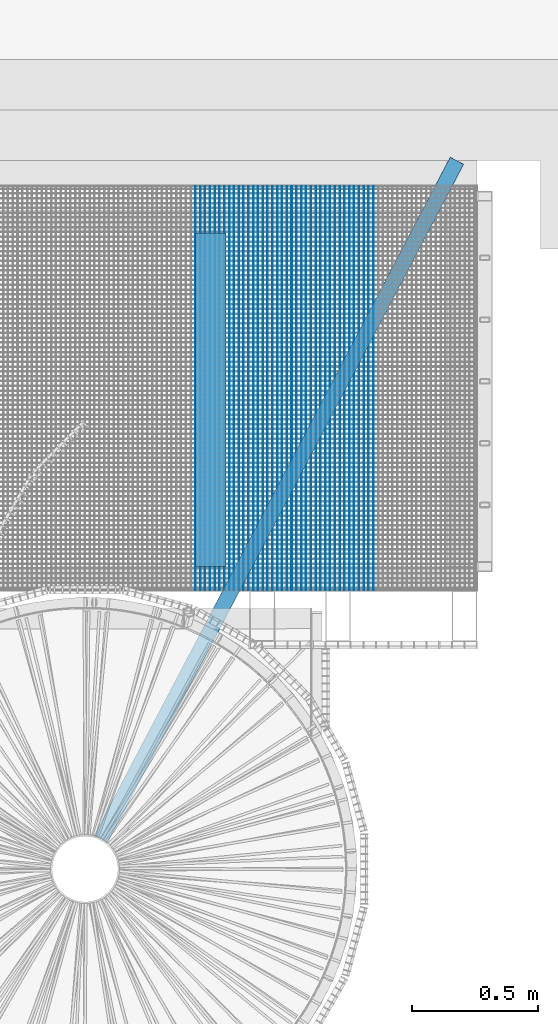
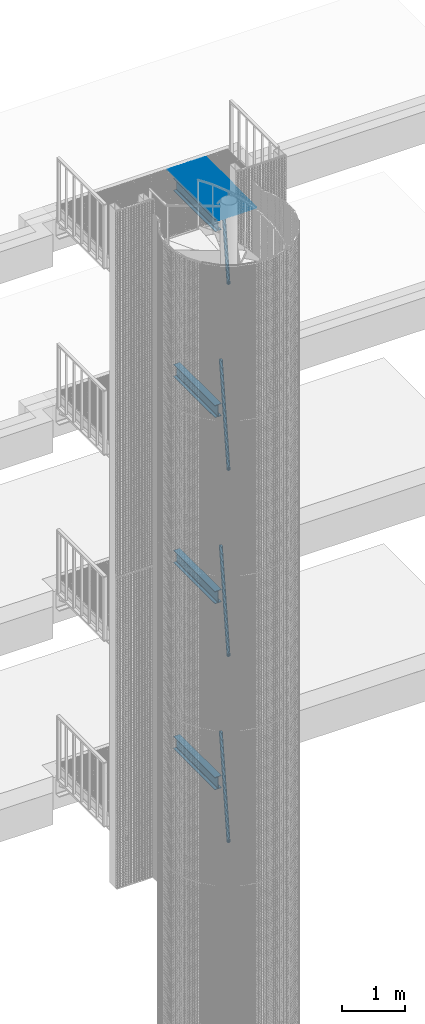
# One storey, part 86 of 1183: 46 beams, 9 elements without a shape of their own.
"""IFC2X3 building model written with IfcOpenShell, lengths in millimetres."""

from ifc_helpers import new_model, si_unit, frame, origin_with_axes, origin_2d_with_axis, place, context, subcontext, project, spatial, polyline, rectangle, hollow_circle, i_section, outline, extrude, boolean, material, type_object, element, aggregate, save


model = new_model("IFC2X3")

# Units and contexts
model_context = context("Model", 3, precision=1e-05, world=origin_with_axes())
body_context = subcontext(model_context, "Body", "Model", "MODEL_VIEW")
ifc_project = project(units=[si_unit("LENGTHUNIT", "METRE", prefix="MILLI"), si_unit("AREAUNIT", "SQUARE_METRE"), si_unit("VOLUMEUNIT", "CUBIC_METRE"), si_unit("MASSUNIT", "GRAM", prefix="KILO"), si_unit("TIMEUNIT", "SECOND"), si_unit("PLANEANGLEUNIT", "RADIAN"), si_unit("SOLIDANGLEUNIT", "STERADIAN"), si_unit("THERMODYNAMICTEMPERATUREUNIT", "DEGREE_CELSIUS"), si_unit("LUMINOUSINTENSITYUNIT", "LUMEN")], contexts=[model_context])

# Site, building, storey
site_placement = place(None, origin_with_axes())
site = spatial("IfcSite", under=ifc_project, at=site_placement, Name="Undefined", CompositionType="ELEMENT")
building_placement = place(site_placement, origin_with_axes())
building = spatial("IfcBuilding", under=site, at=building_placement, Name="Undefined", CompositionType="ELEMENT")
storey_placement = place(building_placement, origin_with_axes())
storey = spatial("IfcBuildingStorey", under=building, at=storey_placement, Name="Undefined", CompositionType="ELEMENT", Elevation=0.0)

# Assembly, beams
assembly_1_placement = place(storey_placement, origin_with_axes())
assembly_1 = element("IfcElementAssembly", 1, at=assembly_1_placement, inside=storey, Name="BORDURE", AssemblyPlace="NOTDEFINED", PredefinedType="NOTDEFINED")
ifc_material_1 = material(Name="STEEL/S235JR")
beam_type_1 = type_object("IfcBeamType", Name="PL2*10", PredefinedType="NOTDEFINED")
beam_1_placement = place(assembly_1_placement, frame((437.075424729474, 1102.00446993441, 17285.0), z_axis=(0.0, 0.0, 1.0), x_axis=(-4.50599999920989e-06, 0.999999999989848, 0.0)))
beam_1 = element("IfcBeam", 2, at=beam_1_placement, type_object=beam_type_1, material=ifc_material_1, Name="ENTRETOISE", context=body_context, shape_type="SweptSolid", body=[
    extrude(rectangle(XDim=2.0, YDim=10.0, at=origin_2d_with_axis()), frame((1596.0000000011, -1.35186458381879e-18, -7.27595761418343e-12), z_axis=(-1.0, 0.0, 0.0), x_axis=(0.0, -1.0, 0.0)), (0.0, 0.0, 1.0), 1596.0),
])
beam_2_placement = place(assembly_1_placement, frame((456.07542472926, 1102.00456345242, 17285.0), z_axis=(0.0, 0.0, 1.0), x_axis=(-4.50599999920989e-06, 0.999999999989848, 0.0)))
beam_2 = element("IfcBeam", 3, at=beam_2_placement, type_object=beam_type_1, material=ifc_material_1, Name="ENTRETOISE", context=body_context, shape_type="SweptSolid", body=[
    extrude(rectangle(XDim=2.0, YDim=10.0, at=origin_2d_with_axis()), frame((1596.0000000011, -1.35186458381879e-18, -7.27595761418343e-12), z_axis=(-1.0, 0.0, 0.0), x_axis=(0.0, -1.0, 0.0)), (0.0, 0.0, 1.0), 1596.0),
])
beam_3_placement = place(assembly_1_placement, frame((475.075424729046, 1102.00465697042, 17285.0), z_axis=(0.0, 0.0, 1.0), x_axis=(-4.50599999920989e-06, 0.999999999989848, 0.0)))
beam_3 = element("IfcBeam", 4, at=beam_3_placement, type_object=beam_type_1, material=ifc_material_1, Name="ENTRETOISE", context=body_context, shape_type="SweptSolid", body=[
    extrude(rectangle(XDim=2.0, YDim=10.0, at=origin_2d_with_axis()), frame((1596.0000000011, -1.35186458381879e-18, -7.27595761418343e-12), z_axis=(-1.0, 0.0, 0.0), x_axis=(0.0, -1.0, 0.0)), (0.0, 0.0, 1.0), 1596.0),
])
beam_4_placement = place(assembly_1_placement, frame((494.075424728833, 1102.00475048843, 17285.0), z_axis=(0.0, 0.0, 1.0), x_axis=(-4.50599999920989e-06, 0.999999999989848, 0.0)))
beam_4 = element("IfcBeam", 5, at=beam_4_placement, type_object=beam_type_1, material=ifc_material_1, Name="ENTRETOISE", context=body_context, shape_type="SweptSolid", body=[
    extrude(rectangle(XDim=2.0, YDim=10.0, at=origin_2d_with_axis()), frame((1596.0000000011, -1.35186458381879e-18, -7.27595761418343e-12), z_axis=(-1.0, 0.0, 0.0), x_axis=(0.0, -1.0, 0.0)), (0.0, 0.0, 1.0), 1596.0),
])
beam_5_placement = place(assembly_1_placement, frame((513.07542472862, 1102.00484400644, 17285.0), z_axis=(0.0, 0.0, 1.0), x_axis=(-4.50599999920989e-06, 0.999999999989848, 0.0)))
beam_5 = element("IfcBeam", 6, at=beam_5_placement, type_object=beam_type_1, material=ifc_material_1, Name="ENTRETOISE", context=body_context, shape_type="SweptSolid", body=[
    extrude(rectangle(XDim=2.0, YDim=10.0, at=origin_2d_with_axis()), frame((1596.0000000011, -1.35186458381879e-18, -7.27595761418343e-12), z_axis=(-1.0, 0.0, 0.0), x_axis=(0.0, -1.0, 0.0)), (0.0, 0.0, 1.0), 1596.0),
])
beam_6_placement = place(assembly_1_placement, frame((532.075424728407, 1102.00493752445, 17285.0), z_axis=(0.0, 0.0, 1.0), x_axis=(-4.50599999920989e-06, 0.999999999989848, 0.0)))
beam_6 = element("IfcBeam", 7, at=beam_6_placement, type_object=beam_type_1, material=ifc_material_1, Name="ENTRETOISE", context=body_context, shape_type="SweptSolid", body=[
    extrude(rectangle(XDim=2.0, YDim=10.0, at=origin_2d_with_axis()), frame((1596.0000000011, -1.35186458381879e-18, -7.27595761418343e-12), z_axis=(-1.0, 0.0, 0.0), x_axis=(0.0, -1.0, 0.0)), (0.0, 0.0, 1.0), 1596.0),
])
beam_7_placement = place(assembly_1_placement, frame((551.075424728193, 1102.00503104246, 17285.0), z_axis=(0.0, 0.0, 1.0), x_axis=(-4.50599999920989e-06, 0.999999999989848, 0.0)))
beam_7 = element("IfcBeam", 8, at=beam_7_placement, type_object=beam_type_1, material=ifc_material_1, Name="ENTRETOISE", context=body_context, shape_type="SweptSolid", body=[
    extrude(rectangle(XDim=2.0, YDim=10.0, at=origin_2d_with_axis()), frame((1596.0000000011, -1.35186458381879e-18, -7.27595761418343e-12), z_axis=(-1.0, 0.0, 0.0), x_axis=(0.0, -1.0, 0.0)), (0.0, 0.0, 1.0), 1596.0),
])
beam_8_placement = place(assembly_1_placement, frame((570.07542472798, 1102.00512456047, 17285.0), z_axis=(0.0, 0.0, 1.0), x_axis=(-4.50599999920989e-06, 0.999999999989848, 0.0)))
beam_8 = element("IfcBeam", 9, at=beam_8_placement, type_object=beam_type_1, material=ifc_material_1, Name="ENTRETOISE", context=body_context, shape_type="SweptSolid", body=[
    extrude(rectangle(XDim=2.0, YDim=10.0, at=origin_2d_with_axis()), frame((1596.0000000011, -1.35186458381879e-18, -7.27595761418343e-12), z_axis=(-1.0, 0.0, 0.0), x_axis=(0.0, -1.0, 0.0)), (0.0, 0.0, 1.0), 1596.0),
])
beam_9_placement = place(assembly_1_placement, frame((589.075424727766, 1102.00521807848, 17285.0), z_axis=(0.0, 0.0, 1.0), x_axis=(-4.50599999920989e-06, 0.999999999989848, 0.0)))
beam_9 = element("IfcBeam", 10, at=beam_9_placement, type_object=beam_type_1, material=ifc_material_1, Name="ENTRETOISE", context=body_context, shape_type="SweptSolid", body=[
    extrude(rectangle(XDim=2.0, YDim=10.0, at=origin_2d_with_axis()), frame((1596.0000000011, -1.35186458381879e-18, -7.27595761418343e-12), z_axis=(-1.0, 0.0, 0.0), x_axis=(0.0, -1.0, 0.0)), (0.0, 0.0, 1.0), 1596.0),
])
beam_10_placement = place(assembly_1_placement, frame((608.075424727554, 1102.00531159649, 17285.0), z_axis=(0.0, 0.0, 1.0), x_axis=(-4.50599999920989e-06, 0.999999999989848, 0.0)))
beam_10 = element("IfcBeam", 11, at=beam_10_placement, type_object=beam_type_1, material=ifc_material_1, Name="ENTRETOISE", context=body_context, shape_type="SweptSolid", body=[
    extrude(rectangle(XDim=2.0, YDim=10.0, at=origin_2d_with_axis()), frame((1596.0000000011, -1.35186458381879e-18, -7.27595761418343e-12), z_axis=(-1.0, 0.0, 0.0), x_axis=(0.0, -1.0, 0.0)), (0.0, 0.0, 1.0), 1596.0),
])
beam_11_placement = place(assembly_1_placement, frame((627.075424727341, 1102.0054051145, 17285.0), z_axis=(0.0, 0.0, 1.0), x_axis=(-4.50599999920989e-06, 0.999999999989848, 0.0)))
beam_11 = element("IfcBeam", 12, at=beam_11_placement, type_object=beam_type_1, material=ifc_material_1, Name="ENTRETOISE", context=body_context, shape_type="SweptSolid", body=[
    extrude(rectangle(XDim=2.0, YDim=10.0, at=origin_2d_with_axis()), frame((1596.0000000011, -1.35186458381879e-18, -7.27595761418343e-12), z_axis=(-1.0, 0.0, 0.0), x_axis=(0.0, -1.0, 0.0)), (0.0, 0.0, 1.0), 1596.0),
])
beam_12_placement = place(assembly_1_placement, frame((646.075424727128, 1102.0054986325, 17285.0), z_axis=(0.0, 0.0, 1.0), x_axis=(-4.50599999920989e-06, 0.999999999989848, 0.0)))
beam_12 = element("IfcBeam", 13, at=beam_12_placement, type_object=beam_type_1, material=ifc_material_1, Name="ENTRETOISE", context=body_context, shape_type="SweptSolid", body=[
    extrude(rectangle(XDim=2.0, YDim=10.0, at=origin_2d_with_axis()), frame((1596.0000000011, -1.35186458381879e-18, -7.27595761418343e-12), z_axis=(-1.0, 0.0, 0.0), x_axis=(0.0, -1.0, 0.0)), (0.0, 0.0, 1.0), 1596.0),
])
beam_13_placement = place(assembly_1_placement, frame((665.075424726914, 1102.00559215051, 17285.0), z_axis=(0.0, 0.0, 1.0), x_axis=(-4.50599999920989e-06, 0.999999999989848, 0.0)))
beam_13 = element("IfcBeam", 14, at=beam_13_placement, type_object=beam_type_1, material=ifc_material_1, Name="ENTRETOISE", context=body_context, shape_type="SweptSolid", body=[
    extrude(rectangle(XDim=2.0, YDim=10.0, at=origin_2d_with_axis()), frame((1596.0000000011, -1.35186458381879e-18, -7.27595761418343e-12), z_axis=(-1.0, 0.0, 0.0), x_axis=(0.0, -1.0, 0.0)), (0.0, 0.0, 1.0), 1596.0),
])
beam_14_placement = place(assembly_1_placement, frame((684.0754247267, 1102.00568566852, 17285.0), z_axis=(0.0, 0.0, 1.0), x_axis=(-4.50599999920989e-06, 0.999999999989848, 0.0)))
beam_14 = element("IfcBeam", 15, at=beam_14_placement, type_object=beam_type_1, material=ifc_material_1, Name="ENTRETOISE", context=body_context, shape_type="SweptSolid", body=[
    extrude(rectangle(XDim=2.0, YDim=10.0, at=origin_2d_with_axis()), frame((1596.0000000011, -1.35186458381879e-18, -7.27595761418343e-12), z_axis=(-1.0, 0.0, 0.0), x_axis=(0.0, -1.0, 0.0)), (0.0, 0.0, 1.0), 1596.0),
])
beam_15_placement = place(assembly_1_placement, frame((703.075424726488, 1102.00577918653, 17285.0), z_axis=(0.0, 0.0, 1.0), x_axis=(-4.50599999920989e-06, 0.999999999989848, 0.0)))
beam_15 = element("IfcBeam", 16, at=beam_15_placement, type_object=beam_type_1, material=ifc_material_1, Name="ENTRETOISE", context=body_context, shape_type="SweptSolid", body=[
    extrude(rectangle(XDim=2.0, YDim=10.0, at=origin_2d_with_axis()), frame((1596.0000000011, -1.35186458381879e-18, -7.27595761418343e-12), z_axis=(-1.0, 0.0, 0.0), x_axis=(0.0, -1.0, 0.0)), (0.0, 0.0, 1.0), 1596.0),
])
beam_16_placement = place(assembly_1_placement, frame((722.075424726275, 1102.00587270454, 17285.0), z_axis=(0.0, 0.0, 1.0), x_axis=(-4.50599999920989e-06, 0.999999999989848, 0.0)))
beam_16 = element("IfcBeam", 17, at=beam_16_placement, type_object=beam_type_1, material=ifc_material_1, Name="ENTRETOISE", context=body_context, shape_type="SweptSolid", body=[
    extrude(rectangle(XDim=2.0, YDim=10.0, at=origin_2d_with_axis()), frame((1596.0000000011, -1.35186458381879e-18, -7.27595761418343e-12), z_axis=(-1.0, 0.0, 0.0), x_axis=(0.0, -1.0, 0.0)), (0.0, 0.0, 1.0), 1596.0),
])
beam_17_placement = place(assembly_1_placement, frame((741.075424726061, 1102.00596622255, 17285.0), z_axis=(0.0, 0.0, 1.0), x_axis=(-4.50599999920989e-06, 0.999999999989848, 0.0)))
beam_17 = element("IfcBeam", 18, at=beam_17_placement, type_object=beam_type_1, material=ifc_material_1, Name="ENTRETOISE", context=body_context, shape_type="SweptSolid", body=[
    extrude(rectangle(XDim=2.0, YDim=10.0, at=origin_2d_with_axis()), frame((1596.0000000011, -1.35186458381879e-18, -7.27595761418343e-12), z_axis=(-1.0, 0.0, 0.0), x_axis=(0.0, -1.0, 0.0)), (0.0, 0.0, 1.0), 1596.0),
])
beam_18_placement = place(assembly_1_placement, frame((760.075424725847, 1102.00605974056, 17285.0), z_axis=(0.0, 0.0, 1.0), x_axis=(-4.50599999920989e-06, 0.999999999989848, 0.0)))
beam_18 = element("IfcBeam", 19, at=beam_18_placement, type_object=beam_type_1, material=ifc_material_1, Name="ENTRETOISE", context=body_context, shape_type="SweptSolid", body=[
    extrude(rectangle(XDim=2.0, YDim=10.0, at=origin_2d_with_axis()), frame((1596.0000000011, -1.35186458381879e-18, -7.27595761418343e-12), z_axis=(-1.0, 0.0, 0.0), x_axis=(0.0, -1.0, 0.0)), (0.0, 0.0, 1.0), 1596.0),
])
beam_19_placement = place(assembly_1_placement, frame((779.075424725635, 1102.00615325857, 17285.0), z_axis=(0.0, 0.0, 1.0), x_axis=(-4.50599999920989e-06, 0.999999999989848, 0.0)))
beam_19 = element("IfcBeam", 20, at=beam_19_placement, type_object=beam_type_1, material=ifc_material_1, Name="ENTRETOISE", context=body_context, shape_type="SweptSolid", body=[
    extrude(rectangle(XDim=2.0, YDim=10.0, at=origin_2d_with_axis()), frame((1596.0000000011, -1.35186458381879e-18, -7.27595761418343e-12), z_axis=(-1.0, 0.0, 0.0), x_axis=(0.0, -1.0, 0.0)), (0.0, 0.0, 1.0), 1596.0),
])
beam_20_placement = place(assembly_1_placement, frame((798.075424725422, 1102.00624677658, 17285.0), z_axis=(0.0, 0.0, 1.0), x_axis=(-4.50599999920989e-06, 0.999999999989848, 0.0)))
beam_20 = element("IfcBeam", 21, at=beam_20_placement, type_object=beam_type_1, material=ifc_material_1, Name="ENTRETOISE", context=body_context, shape_type="SweptSolid", body=[
    extrude(rectangle(XDim=2.0, YDim=10.0, at=origin_2d_with_axis()), frame((1596.0000000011, -1.35186458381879e-18, -7.27595761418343e-12), z_axis=(-1.0, 0.0, 0.0), x_axis=(0.0, -1.0, 0.0)), (0.0, 0.0, 1.0), 1596.0),
])
beam_21_placement = place(assembly_1_placement, frame((817.075424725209, 1102.00634029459, 17285.0), z_axis=(0.0, 0.0, 1.0), x_axis=(-4.50599999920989e-06, 0.999999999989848, 0.0)))
beam_21 = element("IfcBeam", 22, at=beam_21_placement, type_object=beam_type_1, material=ifc_material_1, Name="ENTRETOISE", context=body_context, shape_type="SweptSolid", body=[
    extrude(rectangle(XDim=2.0, YDim=10.0, at=origin_2d_with_axis()), frame((1596.0000000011, -1.35186458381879e-18, -7.27595761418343e-12), z_axis=(-1.0, 0.0, 0.0), x_axis=(0.0, -1.0, 0.0)), (0.0, 0.0, 1.0), 1596.0),
])
beam_22_placement = place(assembly_1_placement, frame((836.075424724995, 1102.00643381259, 17285.0), z_axis=(0.0, 0.0, 1.0), x_axis=(-4.50599999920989e-06, 0.999999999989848, 0.0)))
beam_22 = element("IfcBeam", 23, at=beam_22_placement, type_object=beam_type_1, material=ifc_material_1, Name="ENTRETOISE", context=body_context, shape_type="SweptSolid", body=[
    extrude(rectangle(XDim=2.0, YDim=10.0, at=origin_2d_with_axis()), frame((1596.0000000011, -1.35186458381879e-18, -7.27595761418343e-12), z_axis=(-1.0, 0.0, 0.0), x_axis=(0.0, -1.0, 0.0)), (0.0, 0.0, 1.0), 1596.0),
])
beam_23_placement = place(assembly_1_placement, frame((855.075424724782, 1102.0065273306, 17285.0), z_axis=(0.0, 0.0, 1.0), x_axis=(-4.50599999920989e-06, 0.999999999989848, 0.0)))
beam_23 = element("IfcBeam", 24, at=beam_23_placement, type_object=beam_type_1, material=ifc_material_1, Name="ENTRETOISE", context=body_context, shape_type="SweptSolid", body=[
    extrude(rectangle(XDim=2.0, YDim=10.0, at=origin_2d_with_axis()), frame((1596.0000000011, -1.35186458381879e-18, -7.27595761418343e-12), z_axis=(-1.0, 0.0, 0.0), x_axis=(0.0, -1.0, 0.0)), (0.0, 0.0, 1.0), 1596.0),
])
beam_24_placement = place(assembly_1_placement, frame((874.075424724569, 1102.00662084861, 17285.0), z_axis=(0.0, 0.0, 1.0), x_axis=(-4.50599999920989e-06, 0.999999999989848, 0.0)))
beam_24 = element("IfcBeam", 25, at=beam_24_placement, type_object=beam_type_1, material=ifc_material_1, Name="ENTRETOISE", context=body_context, shape_type="SweptSolid", body=[
    extrude(rectangle(XDim=2.0, YDim=10.0, at=origin_2d_with_axis()), frame((1596.0000000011, -1.35186458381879e-18, -7.27595761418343e-12), z_axis=(-1.0, 0.0, 0.0), x_axis=(0.0, -1.0, 0.0)), (0.0, 0.0, 1.0), 1596.0),
])
beam_25_placement = place(assembly_1_placement, frame((893.075424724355, 1102.00671436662, 17285.0), z_axis=(0.0, 0.0, 1.0), x_axis=(-4.50599999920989e-06, 0.999999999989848, 0.0)))
beam_25 = element("IfcBeam", 26, at=beam_25_placement, type_object=beam_type_1, material=ifc_material_1, Name="ENTRETOISE", context=body_context, shape_type="SweptSolid", body=[
    extrude(rectangle(XDim=2.0, YDim=10.0, at=origin_2d_with_axis()), frame((1596.0000000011, -1.35186458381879e-18, -7.27595761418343e-12), z_axis=(-1.0, 0.0, 0.0), x_axis=(0.0, -1.0, 0.0)), (0.0, 0.0, 1.0), 1596.0),
])
beam_26_placement = place(assembly_1_placement, frame((912.075424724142, 1102.00680788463, 17285.0), z_axis=(0.0, 0.0, 1.0), x_axis=(-4.50599999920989e-06, 0.999999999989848, 0.0)))
beam_26 = element("IfcBeam", 27, at=beam_26_placement, type_object=beam_type_1, material=ifc_material_1, Name="ENTRETOISE", context=body_context, shape_type="SweptSolid", body=[
    extrude(rectangle(XDim=2.0, YDim=10.0, at=origin_2d_with_axis()), frame((1596.0000000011, -1.35186458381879e-18, -7.27595761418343e-12), z_axis=(-1.0, 0.0, 0.0), x_axis=(0.0, -1.0, 0.0)), (0.0, 0.0, 1.0), 1596.0),
])
beam_27_placement = place(assembly_1_placement, frame((931.075424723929, 1102.00690140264, 17285.0), z_axis=(0.0, 0.0, 1.0), x_axis=(-4.50599999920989e-06, 0.999999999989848, 0.0)))
beam_27 = element("IfcBeam", 28, at=beam_27_placement, type_object=beam_type_1, material=ifc_material_1, Name="ENTRETOISE", context=body_context, shape_type="SweptSolid", body=[
    extrude(rectangle(XDim=2.0, YDim=10.0, at=origin_2d_with_axis()), frame((1596.0000000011, -1.35186458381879e-18, -7.27595761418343e-12), z_axis=(-1.0, 0.0, 0.0), x_axis=(0.0, -1.0, 0.0)), (0.0, 0.0, 1.0), 1596.0),
])
beam_28_placement = place(assembly_1_placement, frame((950.075424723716, 1102.00699492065, 17285.0), z_axis=(0.0, 0.0, 1.0), x_axis=(-4.50599999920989e-06, 0.999999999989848, 0.0)))
beam_28 = element("IfcBeam", 29, at=beam_28_placement, type_object=beam_type_1, material=ifc_material_1, Name="ENTRETOISE", context=body_context, shape_type="SweptSolid", body=[
    extrude(rectangle(XDim=2.0, YDim=10.0, at=origin_2d_with_axis()), frame((1596.0000000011, -1.35186458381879e-18, -7.27595761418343e-12), z_axis=(-1.0, 0.0, 0.0), x_axis=(0.0, -1.0, 0.0)), (0.0, 0.0, 1.0), 1596.0),
])
beam_29_placement = place(assembly_1_placement, frame((969.075424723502, 1102.00708843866, 17285.0), z_axis=(0.0, 0.0, 1.0), x_axis=(-4.50599999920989e-06, 0.999999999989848, 0.0)))
beam_29 = element("IfcBeam", 30, at=beam_29_placement, type_object=beam_type_1, material=ifc_material_1, Name="ENTRETOISE", context=body_context, shape_type="SweptSolid", body=[
    extrude(rectangle(XDim=2.0, YDim=10.0, at=origin_2d_with_axis()), frame((1596.0000000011, -1.35186458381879e-18, -7.27595761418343e-12), z_axis=(-1.0, 0.0, 0.0), x_axis=(0.0, -1.0, 0.0)), (0.0, 0.0, 1.0), 1596.0),
])
beam_30_placement = place(assembly_1_placement, frame((988.07542472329, 1102.00718195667, 17285.0), z_axis=(0.0, 0.0, 1.0), x_axis=(-4.50599999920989e-06, 0.999999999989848, 0.0)))
beam_30 = element("IfcBeam", 31, at=beam_30_placement, type_object=beam_type_1, material=ifc_material_1, Name="ENTRETOISE", context=body_context, shape_type="SweptSolid", body=[
    extrude(rectangle(XDim=2.0, YDim=10.0, at=origin_2d_with_axis()), frame((1596.0000000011, -1.35186458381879e-18, -7.27595761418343e-12), z_axis=(-1.0, 0.0, 0.0), x_axis=(0.0, -1.0, 0.0)), (0.0, 0.0, 1.0), 1596.0),
])
beam_31_placement = place(assembly_1_placement, frame((1007.07542472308, 1102.00727547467, 17285.0), z_axis=(0.0, 0.0, 1.0), x_axis=(-4.50599999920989e-06, 0.999999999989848, 0.0)))
beam_31 = element("IfcBeam", 32, at=beam_31_placement, type_object=beam_type_1, material=ifc_material_1, Name="ENTRETOISE", context=body_context, shape_type="SweptSolid", body=[
    extrude(rectangle(XDim=2.0, YDim=10.0, at=origin_2d_with_axis()), frame((1596.0000000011, -1.35186458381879e-18, -7.27595761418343e-12), z_axis=(-1.0, 0.0, 0.0), x_axis=(0.0, -1.0, 0.0)), (0.0, 0.0, 1.0), 1596.0),
])
beam_32_placement = place(assembly_1_placement, frame((1026.07542472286, 1102.00736899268, 17285.0), z_axis=(0.0, 0.0, 1.0), x_axis=(-4.50599999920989e-06, 0.999999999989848, 0.0)))
beam_32 = element("IfcBeam", 33, at=beam_32_placement, type_object=beam_type_1, material=ifc_material_1, Name="ENTRETOISE", context=body_context, shape_type="SweptSolid", body=[
    extrude(rectangle(XDim=2.0, YDim=10.0, at=origin_2d_with_axis()), frame((1596.0000000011, -1.35186458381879e-18, -7.27595761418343e-12), z_axis=(-1.0, 0.0, 0.0), x_axis=(0.0, -1.0, 0.0)), (0.0, 0.0, 1.0), 1596.0),
])
beam_33_placement = place(assembly_1_placement, frame((1045.07542472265, 1102.00746251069, 17285.0), z_axis=(0.0, 0.0, 1.0), x_axis=(-4.50599999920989e-06, 0.999999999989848, 0.0)))
beam_33 = element("IfcBeam", 34, at=beam_33_placement, type_object=beam_type_1, material=ifc_material_1, Name="ENTRETOISE", context=body_context, shape_type="SweptSolid", body=[
    extrude(rectangle(XDim=2.0, YDim=10.0, at=origin_2d_with_axis()), frame((1596.0000000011, -1.35186458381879e-18, -7.27595761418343e-12), z_axis=(-1.0, 0.0, 0.0), x_axis=(0.0, -1.0, 0.0)), (0.0, 0.0, 1.0), 1596.0),
])
beam_34_placement = place(assembly_1_placement, frame((1064.07542472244, 1102.0075560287, 17285.0), z_axis=(0.0, 0.0, 1.0), x_axis=(-4.50599999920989e-06, 0.999999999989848, 0.0)))
beam_34 = element("IfcBeam", 35, at=beam_34_placement, type_object=beam_type_1, material=ifc_material_1, Name="ENTRETOISE", context=body_context, shape_type="SweptSolid", body=[
    extrude(rectangle(XDim=2.0, YDim=10.0, at=origin_2d_with_axis()), frame((1596.0000000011, -1.35186458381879e-18, -7.27595761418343e-12), z_axis=(-1.0, 0.0, 0.0), x_axis=(0.0, -1.0, 0.0)), (0.0, 0.0, 1.0), 1596.0),
])
beam_35_placement = place(assembly_1_placement, frame((1083.07542472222, 1102.00764954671, 17285.0), z_axis=(0.0, 0.0, 1.0), x_axis=(-4.50599999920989e-06, 0.999999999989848, 0.0)))
beam_35 = element("IfcBeam", 36, at=beam_35_placement, type_object=beam_type_1, material=ifc_material_1, Name="ENTRETOISE", context=body_context, shape_type="SweptSolid", body=[
    extrude(rectangle(XDim=2.0, YDim=10.0, at=origin_2d_with_axis()), frame((1596.0000000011, -1.35186458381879e-18, -7.27595761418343e-12), z_axis=(-1.0, 0.0, 0.0), x_axis=(0.0, -1.0, 0.0)), (0.0, 0.0, 1.0), 1596.0),
])
beam_36_placement = place(assembly_1_placement, frame((1102.07542472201, 1102.00774306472, 17285.0), z_axis=(0.0, 0.0, 1.0), x_axis=(-4.50599999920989e-06, 0.999999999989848, 0.0)))
beam_36 = element("IfcBeam", 37, at=beam_36_placement, type_object=beam_type_1, material=ifc_material_1, Name="ENTRETOISE", context=body_context, shape_type="SweptSolid", body=[
    extrude(rectangle(XDim=2.0, YDim=10.0, at=origin_2d_with_axis()), frame((1596.0000000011, -1.35186458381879e-18, -7.27595761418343e-12), z_axis=(-1.0, 0.0, 0.0), x_axis=(0.0, -1.0, 0.0)), (0.0, 0.0, 1.0), 1596.0),
])
beam_37_placement = place(assembly_1_placement, frame((1121.0754247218, 1102.00783658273, 17285.0), z_axis=(0.0, 0.0, 1.0), x_axis=(-4.50599999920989e-06, 0.999999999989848, 0.0)))
beam_37 = element("IfcBeam", 38, at=beam_37_placement, type_object=beam_type_1, material=ifc_material_1, Name="ENTRETOISE", context=body_context, shape_type="SweptSolid", body=[
    extrude(rectangle(XDim=2.0, YDim=10.0, at=origin_2d_with_axis()), frame((1596.0000000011, -1.35186458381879e-18, -7.27595761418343e-12), z_axis=(-1.0, 0.0, 0.0), x_axis=(0.0, -1.0, 0.0)), (0.0, 0.0, 1.0), 1596.0),
])
beam_38_placement = place(assembly_1_placement, frame((1140.07542472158, 1102.00793010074, 17285.0), z_axis=(0.0, 0.0, 1.0), x_axis=(-4.50599999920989e-06, 0.999999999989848, 0.0)))
beam_38 = element("IfcBeam", 39, at=beam_38_placement, type_object=beam_type_1, material=ifc_material_1, Name="ENTRETOISE", context=body_context, shape_type="SweptSolid", body=[
    extrude(rectangle(XDim=2.0, YDim=10.0, at=origin_2d_with_axis()), frame((1596.0000000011, -1.35186458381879e-18, -7.27595761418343e-12), z_axis=(-1.0, 0.0, 0.0), x_axis=(0.0, -1.0, 0.0)), (0.0, 0.0, 1.0), 1596.0),
])
aggregate(assembly_1, [beam_1, beam_2, beam_3, beam_4, beam_5, beam_6, beam_7, beam_8, beam_9, beam_10, beam_11, beam_12, beam_13, beam_14, beam_15, beam_16, beam_17, beam_18, beam_19, beam_20, beam_21, beam_22, beam_23, beam_24, beam_25, beam_26, beam_27, beam_28, beam_29, beam_30, beam_31, beam_32, beam_33, beam_34, beam_35, beam_36, beam_37, beam_38])

# Assembly, beam
assembly_2_placement = place(storey_placement, origin_with_axes())
assembly_2 = element("IfcElementAssembly", 40, at=assembly_2_placement, inside=storey, AssemblyPlace="NOTDEFINED", PredefinedType="NOTDEFINED")
ifc_material_2 = material(Name="STEEL/S275JR")
beam_type_2 = type_object("IfcBeamType", Name="TUBE-60.3*5", PredefinedType="NOTDEFINED")
beam_39_placement = place(assembly_2_placement, frame((-3.78986442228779e-09, -0.239999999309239, 16790.0), z_axis=(0.0, 0.0, 1.0), x_axis=(0.464816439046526, 0.885407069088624, 0.0)))
beam_39 = element("IfcBeam", 41, at=beam_39_placement, type_object=beam_type_2, material=ifc_material_2, Name="BUTON", context=body_context, shape_type="CSG", body=[
    boolean("DIFFERENCE", extrude(hollow_circle(Radius=30.14999962, WallThickness=5.0, at=origin_2d_with_axis()), frame((3162.38211154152, 0.0, 0.0), z_axis=(-1.0, 0.0, 0.0), x_axis=(0.0, -1.0, 0.0)), (0.0, 0.0, 1.0), 3162.38), extrude(outline(polyline([(0.0, 0.0), (30.5663019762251, -4.91127138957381e-11), (60.366242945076, 6.80164206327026), (87.9055294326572, 20.0638634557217), (111.803226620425, 39.1216410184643), (130.861004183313, 63.0193382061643), (144.123225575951, 90.5586246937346), (150.9248676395, 120.358565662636), (150.924867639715, 150.924867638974), (144.123225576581, 180.724808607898), (130.86100418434, 208.264095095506), (111.803226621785, 232.161792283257), (87.9055294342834, 251.219569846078), (60.3662429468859, 264.481791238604), (30.5663019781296, 271.283433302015), (1.90266291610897e-09, 271.28343330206), (-29.7999409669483, 264.481791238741), (-57.3392274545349, 251.219569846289), (-81.2369246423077, 232.161792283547), (-100.294702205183, 208.26409509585), (-113.556923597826, 180.724808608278), (-120.35856566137, 150.92486763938), (-120.358565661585, 120.358565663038), (-113.556923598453, 90.5586246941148), (-100.294702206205, 63.0193382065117), (-81.2369246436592, 39.1216410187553), (-57.3392274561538, 20.0638634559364), (-29.7999409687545, 6.80164206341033), (0.0, 0.0)])), frame((-60.2021502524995, 122.513844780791, -32.9999999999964), z_axis=(0.0, 0.0, 1.0), x_axis=(-0.841526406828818, -0.540215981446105, 0.0)), (0.0, 0.0, 1.0), 66.0)),
])
aggregate(assembly_2, [beam_39])

assembly_3_placement = place(storey_placement, origin_with_axes())
assembly_3 = element("IfcElementAssembly", 42, at=assembly_3_placement, inside=storey, AssemblyPlace="NOTDEFINED", PredefinedType="NOTDEFINED")
beam_40_placement = place(assembly_3_placement, frame((-3.78986442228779e-09, -0.159999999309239, 13190.0), z_axis=(0.0, 0.0, 1.0), x_axis=(0.464816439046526, 0.885407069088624, 0.0)))
beam_40 = element("IfcBeam", 43, at=beam_40_placement, type_object=beam_type_2, material=ifc_material_2, Name="BUTON", context=body_context, shape_type="CSG", body=[
    boolean("DIFFERENCE", extrude(hollow_circle(Radius=30.14999962, WallThickness=5.0, at=origin_2d_with_axis()), frame((3162.38211154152, 0.0, 0.0), z_axis=(-1.0, 0.0, 0.0), x_axis=(0.0, -1.0, 0.0)), (0.0, 0.0, 1.0), 3162.38), extrude(outline(polyline([(0.0, 0.0), (30.5663019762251, -4.91127138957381e-11), (60.366242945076, 6.80164206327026), (87.9055294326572, 20.0638634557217), (111.803226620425, 39.1216410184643), (130.861004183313, 63.0193382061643), (144.123225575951, 90.5586246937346), (150.9248676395, 120.358565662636), (150.924867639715, 150.924867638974), (144.123225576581, 180.724808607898), (130.86100418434, 208.264095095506), (111.803226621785, 232.161792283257), (87.9055294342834, 251.219569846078), (60.3662429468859, 264.481791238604), (30.5663019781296, 271.283433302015), (1.90266291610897e-09, 271.28343330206), (-29.7999409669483, 264.481791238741), (-57.3392274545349, 251.219569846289), (-81.2369246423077, 232.161792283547), (-100.294702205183, 208.26409509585), (-113.556923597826, 180.724808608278), (-120.35856566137, 150.92486763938), (-120.358565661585, 120.358565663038), (-113.556923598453, 90.5586246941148), (-100.294702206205, 63.0193382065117), (-81.2369246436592, 39.1216410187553), (-57.3392274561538, 20.0638634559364), (-29.7999409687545, 6.80164206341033), (0.0, 0.0)])), frame((-60.2729828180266, 122.476659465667, -32.9999999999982), z_axis=(0.0, 0.0, 1.0), x_axis=(-0.841526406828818, -0.540215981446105, 0.0)), (0.0, 0.0, 1.0), 66.0)),
])
aggregate(assembly_3, [beam_40])

assembly_4_placement = place(storey_placement, origin_with_axes())
assembly_4 = element("IfcElementAssembly", 44, at=assembly_4_placement, inside=storey, AssemblyPlace="NOTDEFINED", PredefinedType="NOTDEFINED")
beam_41_placement = place(assembly_4_placement, frame((-3.78986442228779e-09, -0.0799999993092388, 9590.0), z_axis=(0.0, 0.0, 1.0), x_axis=(0.464816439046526, 0.885407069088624, 0.0)))
beam_41 = element("IfcBeam", 45, at=beam_41_placement, type_object=beam_type_2, material=ifc_material_2, Name="BUTON", context=body_context, shape_type="CSG", body=[
    boolean("DIFFERENCE", extrude(hollow_circle(Radius=30.14999962, WallThickness=5.0, at=origin_2d_with_axis()), frame((3162.38211154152, 0.0, 0.0), z_axis=(-1.0, 0.0, 0.0), x_axis=(0.0, -1.0, 0.0)), (0.0, 0.0, 1.0), 3162.38), extrude(outline(polyline([(0.0, 0.0), (30.5663019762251, -4.91127138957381e-11), (60.366242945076, 6.80164206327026), (87.9055294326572, 20.0638634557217), (111.803226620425, 39.1216410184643), (130.861004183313, 63.0193382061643), (144.123225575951, 90.5586246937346), (150.9248676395, 120.358565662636), (150.924867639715, 150.924867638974), (144.123225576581, 180.724808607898), (130.86100418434, 208.264095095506), (111.803226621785, 232.161792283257), (87.9055294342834, 251.219569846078), (60.3662429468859, 264.481791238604), (30.5663019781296, 271.283433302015), (1.90266291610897e-09, 271.28343330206), (-29.7999409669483, 264.481791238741), (-57.3392274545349, 251.219569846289), (-81.2369246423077, 232.161792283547), (-100.294702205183, 208.26409509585), (-113.556923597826, 180.724808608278), (-120.35856566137, 150.92486763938), (-120.358565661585, 120.358565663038), (-113.556923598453, 90.5586246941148), (-100.294702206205, 63.0193382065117), (-81.2369246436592, 39.1216410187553), (-57.3392274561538, 20.0638634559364), (-29.7999409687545, 6.80164206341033), (0.0, 0.0)])), frame((-60.3438153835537, 122.439474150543, -32.9999999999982), z_axis=(0.0, 0.0, 1.0), x_axis=(-0.841526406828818, -0.540215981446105, 0.0)), (0.0, 0.0, 1.0), 66.0)),
])
aggregate(assembly_4, [beam_41])

assembly_5_placement = place(storey_placement, origin_with_axes())
assembly_5 = element("IfcElementAssembly", 46, at=assembly_5_placement, inside=storey, AssemblyPlace="NOTDEFINED", PredefinedType="NOTDEFINED")
beam_42_placement = place(assembly_5_placement, frame((-3.78986442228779e-09, 6.90761225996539e-10, 5990.0), z_axis=(0.0, 0.0, 1.0), x_axis=(0.464816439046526, 0.885407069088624, 0.0)))
beam_42 = element("IfcBeam", 47, at=beam_42_placement, type_object=beam_type_2, material=ifc_material_2, Name="BUTON", context=body_context, shape_type="CSG", body=[
    boolean("DIFFERENCE", extrude(hollow_circle(Radius=30.14999962, WallThickness=5.0, at=origin_2d_with_axis()), frame((3162.38211154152, 0.0, 0.0), z_axis=(-1.0, 0.0, 0.0), x_axis=(0.0, -1.0, 0.0)), (0.0, 0.0, 1.0), 3162.38), extrude(outline(polyline([(0.0, 0.0), (30.5663019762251, -4.91127138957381e-11), (60.366242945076, 6.80164206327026), (87.9055294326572, 20.0638634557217), (111.803226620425, 39.1216410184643), (130.861004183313, 63.0193382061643), (144.123225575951, 90.5586246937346), (150.9248676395, 120.358565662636), (150.924867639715, 150.924867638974), (144.123225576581, 180.724808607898), (130.86100418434, 208.264095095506), (111.803226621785, 232.161792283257), (87.9055294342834, 251.219569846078), (60.3662429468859, 264.481791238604), (30.5663019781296, 271.283433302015), (1.90266291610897e-09, 271.28343330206), (-29.7999409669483, 264.481791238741), (-57.3392274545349, 251.219569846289), (-81.2369246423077, 232.161792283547), (-100.294702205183, 208.26409509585), (-113.556923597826, 180.724808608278), (-120.35856566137, 150.92486763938), (-120.358565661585, 120.358565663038), (-113.556923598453, 90.5586246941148), (-100.294702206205, 63.0193382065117), (-81.2369246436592, 39.1216410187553), (-57.3392274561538, 20.0638634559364), (-29.7999409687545, 6.80164206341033), (0.0, 0.0)])), frame((-60.4146479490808, 122.40228883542, -33.0000000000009), z_axis=(0.0, 0.0, 1.0), x_axis=(-0.841526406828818, -0.540215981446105, 0.0)), (0.0, 0.0, 1.0), 66.0)),
])
aggregate(assembly_5, [beam_42])

assembly_6_placement = place(storey_placement, origin_with_axes())
assembly_6 = element("IfcElementAssembly", 48, at=assembly_6_placement, inside=storey, AssemblyPlace="NOTDEFINED", PredefinedType="NOTDEFINED")
beam_type_3 = type_object("IfcBeamType", Name="IPE240", PredefinedType="NOTDEFINED")
beam_43_placement = place(assembly_6_placement, frame((496.74043456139, 1195.00994809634, 17120.0), z_axis=(0.0, 0.0, 1.0), x_axis=(-4.50599999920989e-06, 0.999999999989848, 0.0)))
beam_43 = element("IfcBeam", 49, at=beam_43_placement, type_object=beam_type_3, material=ifc_material_1, Name="EXISTANTS", context=body_context, shape_type="SweptSolid", body=[
    extrude(i_section(OverallWidth=120.0, OverallDepth=240.0, WebThickness=6.199999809, FlangeThickness=9.800000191, FilletRadius=15.0, at=origin_2d_with_axis()), frame((1319.99832798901, 0.0, -3.63797880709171e-12), z_axis=(-1.0, 0.0, 0.0), x_axis=(0.0, -1.0, 0.0)), (0.0, 0.0, 1.0), 1320.0),
])
aggregate(assembly_6, [beam_43])

assembly_7_placement = place(storey_placement, origin_with_axes())
assembly_7 = element("IfcElementAssembly", 50, at=assembly_7_placement, inside=storey, AssemblyPlace="NOTDEFINED", PredefinedType="NOTDEFINED")
beam_44_placement = place(assembly_7_placement, frame((496.74043456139, 1195.00994809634, 13520.0), z_axis=(0.0, 0.0, 1.0), x_axis=(-4.50599999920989e-06, 0.999999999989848, 0.0)))
beam_44 = element("IfcBeam", 51, at=beam_44_placement, type_object=beam_type_3, material=ifc_material_1, Name="EXISTANTS", context=body_context, shape_type="SweptSolid", body=[
    extrude(i_section(OverallWidth=120.0, OverallDepth=240.0, WebThickness=6.199999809, FlangeThickness=9.800000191, FilletRadius=15.0, at=origin_2d_with_axis()), frame((1319.99832798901, 0.0, -3.63797880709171e-12), z_axis=(-1.0, 0.0, 0.0), x_axis=(0.0, -1.0, 0.0)), (0.0, 0.0, 1.0), 1320.0),
])
aggregate(assembly_7, [beam_44])

assembly_8_placement = place(storey_placement, origin_with_axes())
assembly_8 = element("IfcElementAssembly", 52, at=assembly_8_placement, inside=storey, AssemblyPlace="NOTDEFINED", PredefinedType="NOTDEFINED")
beam_45_placement = place(assembly_8_placement, frame((496.74043456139, 1195.00994809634, 9920.0), z_axis=(0.0, 0.0, 1.0), x_axis=(-4.50599999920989e-06, 0.999999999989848, 0.0)))
beam_45 = element("IfcBeam", 53, at=beam_45_placement, type_object=beam_type_3, material=ifc_material_1, Name="EXISTANTS", context=body_context, shape_type="SweptSolid", body=[
    extrude(i_section(OverallWidth=120.0, OverallDepth=240.0, WebThickness=6.199999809, FlangeThickness=9.800000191, FilletRadius=15.0, at=origin_2d_with_axis()), frame((1319.99832798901, 0.0, -3.63797880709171e-12), z_axis=(-1.0, 0.0, 0.0), x_axis=(0.0, -1.0, 0.0)), (0.0, 0.0, 1.0), 1320.0),
])
aggregate(assembly_8, [beam_45])

assembly_9_placement = place(storey_placement, origin_with_axes())
assembly_9 = element("IfcElementAssembly", 54, at=assembly_9_placement, inside=storey, AssemblyPlace="NOTDEFINED", PredefinedType="NOTDEFINED")
beam_46_placement = place(assembly_9_placement, frame((496.74043456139, 1195.00994809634, 6320.0), z_axis=(0.0, 0.0, 1.0), x_axis=(-4.50599999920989e-06, 0.999999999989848, 0.0)))
beam_46 = element("IfcBeam", 55, at=beam_46_placement, type_object=beam_type_3, material=ifc_material_1, Name="EXISTANTS", context=body_context, shape_type="SweptSolid", body=[
    extrude(i_section(OverallWidth=120.0, OverallDepth=240.0, WebThickness=6.199999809, FlangeThickness=9.800000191, FilletRadius=15.0, at=origin_2d_with_axis()), frame((1319.99832798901, 0.0, -3.63797880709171e-12), z_axis=(-1.0, 0.0, 0.0), x_axis=(0.0, -1.0, 0.0)), (0.0, 0.0, 1.0), 1320.0),
])
aggregate(assembly_9, [beam_46])

save(model, "model.ifc")
